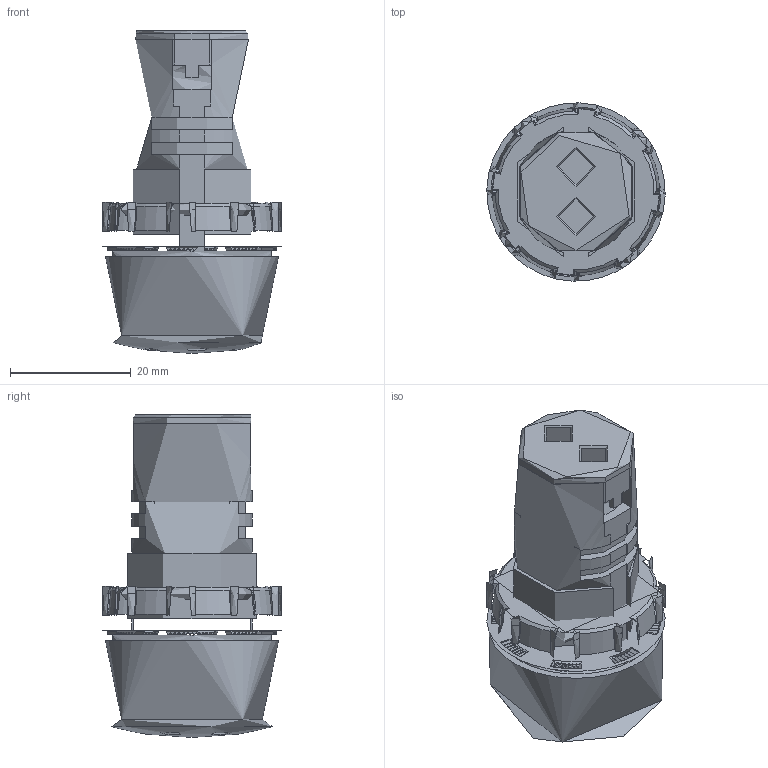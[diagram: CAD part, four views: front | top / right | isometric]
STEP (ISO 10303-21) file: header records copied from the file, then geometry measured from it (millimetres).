
FILE_DESCRIPTION((''),'2; 1');
FILE_NAME('','2026-03-27T10:25:48',(''),(''),'CST STEP Exporter V1.0','Unknown','');
FILE_SCHEMA(('CONFIG_CONTROL_DESIGN'));
Length unit declared in the file: metre
Assembly tree (3 placements, depth 2):
  (unnamed)
    (unnamed)
    (unnamed)
    (unnamed)
Bounding box: 29.5 x 29.5 x 53.4 mm (x, y, z)
Topology: 0 solids, 84 shells, 406 faces, 1149 edges, 807 vertices
Faces by surface type: plane 282, cylinder 53, bspline 32, torus 20, cone 12, sphere 7
Full cylindrical faces by diameter (mm): 2 x16, 5.8 x2, 26.3 x1, 28.7 x1, 29.5 x1
Entity records: 20516 total; most frequent: CARTESIAN_POINT 6492, DIRECTION 2168, ORIENTED_EDGE 2043, EDGE_CURVE 1133, AXIS2_PLACEMENT_3D 849, VERTEX_POINT 745, VECTOR 470, LINE 470
